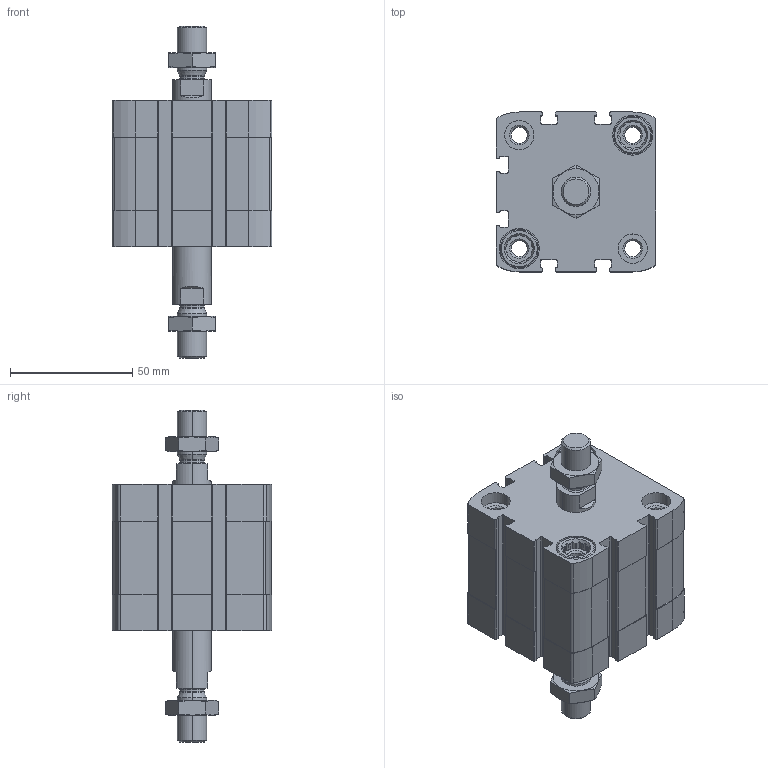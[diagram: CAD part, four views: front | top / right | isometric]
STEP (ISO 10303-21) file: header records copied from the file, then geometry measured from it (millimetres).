
FILE_DESCRIPTION (( 'STEP AP203' ), '1' );
FILE_NAME ('CCN50-15-P.STEP', '2020-06-22T18:56:06', ( '' ), ( '' ), 'SwSTEP 2.0', 'SolidWorks 2019', '' );
FILE_SCHEMA (( 'CONFIG_CONTROL_DESIGN' ));
Length unit declared in the file: millimetre
Products named in the file (1): CCN50-15-P
Bounding box: 65.5 x 65.5 x 136 mm (x, y, z)
Volume: 215872.2 mm3; surface area: 59282.8 mm2
Topology: 4 solids, 4 shells, 528 faces, 1392 edges, 904 vertices
Faces by surface type: plane 240, cylinder 220, cone 60, torus 8
Entity records: 17219 total; most frequent: CARTESIAN_POINT 3821, DIRECTION 2842, ORIENTED_EDGE 2784, EDGE_CURVE 1392, AXIS2_PLACEMENT_3D 1045, VERTEX_POINT 904, LINE 752, VECTOR 752
